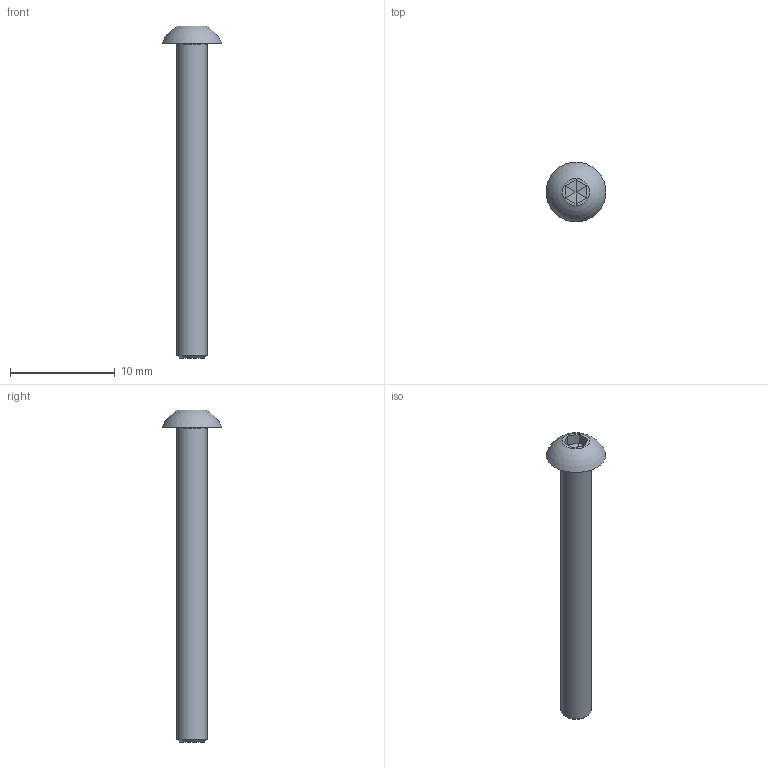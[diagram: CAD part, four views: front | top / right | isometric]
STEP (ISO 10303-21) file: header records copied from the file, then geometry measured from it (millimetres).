
FILE_DESCRIPTION(/* description */ (''),/* implementation_level */ '2;1');
FILE_NAME(/* name */ 'M3 Socket Button Head Bolt - ISO 7380 - A2 Stainless Steel.step',/* time_stamp */ '2024-06-29T05:20:57+03:00',/* author */ (''),/* organization */ (''),/* preprocessor_version */ 'ST-DEVELOPER v20',/* originating_system */ 'Autodesk Translation Framework v13.14.0.145',/* authorisation */ '');
FILE_SCHEMA (('AUTOMOTIVE_DESIGN { 1 0 10303 214 3 1 1 }'));
Length unit declared in the file: millimetre
Products named in the file (2): M3 Socket Button Head Bolt - ISO 7380 - A2 Stainless Steel; Hexagon Socket Button Head Screw DIN EN ISO 7380-1 - M3 x 30 Stainles
s Steel A2 Plain v1
Assembly tree (1 placements, depth 2):
  M3 Socket Button Head Bolt - ISO 7380 - A2 Stainless Steel
    Hexagon Socket Button Head Screw DIN EN ISO 7380-1 - M3 x 30 Stainles
s Steel A2 Plain v1
Bounding box: 5.7 x 5.7 x 31.65 mm (x, y, z)
Volume: 225.7 mm3; surface area: 343.9 mm2
Topology: 1 solids, 1 shells, 19 faces, 34 edges, 19 vertices
Faces by surface type: plane 15, cone 1, torus 1, cylinder 1, sphere 1
Full cylindrical faces by diameter (mm): 2.927 x1
Entity records: 508 total; most frequent: DIRECTION 86, CARTESIAN_POINT 75, ORIENTED_EDGE 68, EDGE_CURVE 34, AXIS2_PLACEMENT_3D 30, LINE 26, VECTOR 26, EDGE_LOOP 21
